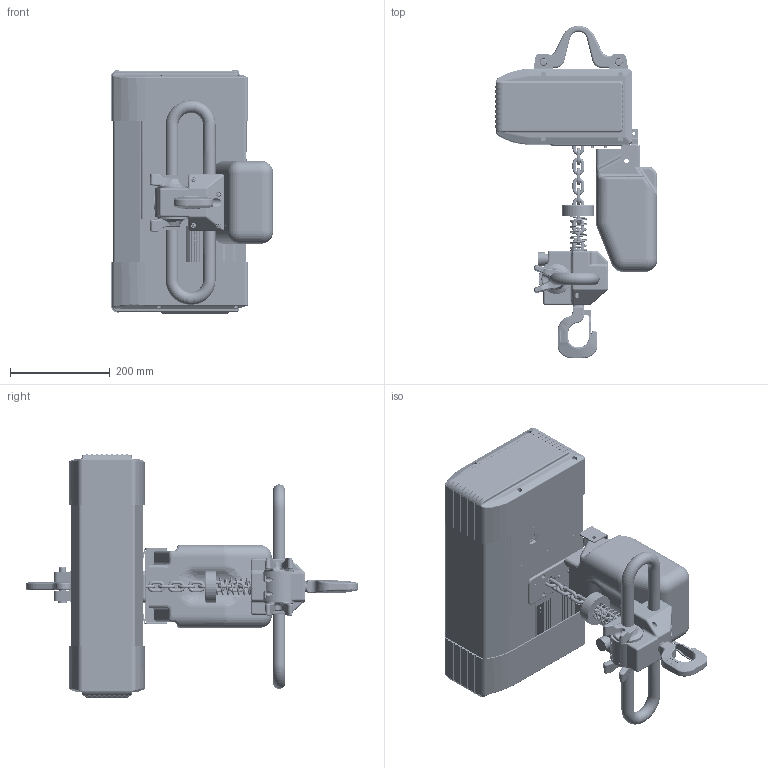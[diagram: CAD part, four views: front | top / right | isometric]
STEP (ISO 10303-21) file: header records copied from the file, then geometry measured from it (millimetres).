
FILE_DESCRIPTION(/* description */ (''),/* implementation_level */ '2;1');
FILE_NAME(/* name */ 'JJQ 0.5-01 固定式 无级变速.stp',/* time_stamp */ '2026-06-30T16:17:51+08:00',/* author */ (''),/* organization */ (''),/* preprocessor_version */ 'ST-DEVELOPER v16.7',/* originating_system */ 'SIEMENS PLM Software NX 12.0',/* authorisation */ '');
FILE_SCHEMA (('AUTOMOTIVE_DESIGN { 1 0 10303 214 3 1 1 1 }'));
Products named in the file (1): A496468134kk3
Bounding box: 325.53 x 665.75 x 490.5 mm (x, y, z)
Volume: 16345617.1 mm3; surface area: 1615399.1 mm2
Topology: 24 solids, 36 shells, 4007 faces, 10081 edges, 6199 vertices
Faces by surface type: plane 1465, cylinder 1267, bspline 576, torus 325, extrusion 194, cone 90, sphere 90
Full cylindrical faces by diameter (mm): 1.467 x1, 1.707 x1, 3.4 x4, 3.838 x4, 4 x6, 4.2 x4, 4.3 x1, 4.5 x8, 5 x2, 5.14 x2, 5.8 x2, 6.2 x3, 6.5 x8, 6.8 x4, 7 x80, 7.46 x1, 8 x6, 9 x4, 10.5 x16, 11 x1, 12 x1, 14 x2, 14.5 x10, 15 x2, 15.037 x4, 15.2 x2, 18 x3, 18.5 x1, 18.8 x1, 19.5 x1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
Entity records: 169989 total; most frequent: CARTESIAN_POINT 74563, ORIENTED_EDGE 18932, DIRECTION 17284, EDGE_CURVE 9466, AXIS2_PLACEMENT_3D 6206, VERTEX_POINT 5930, VECTOR 4872, LINE 4678
